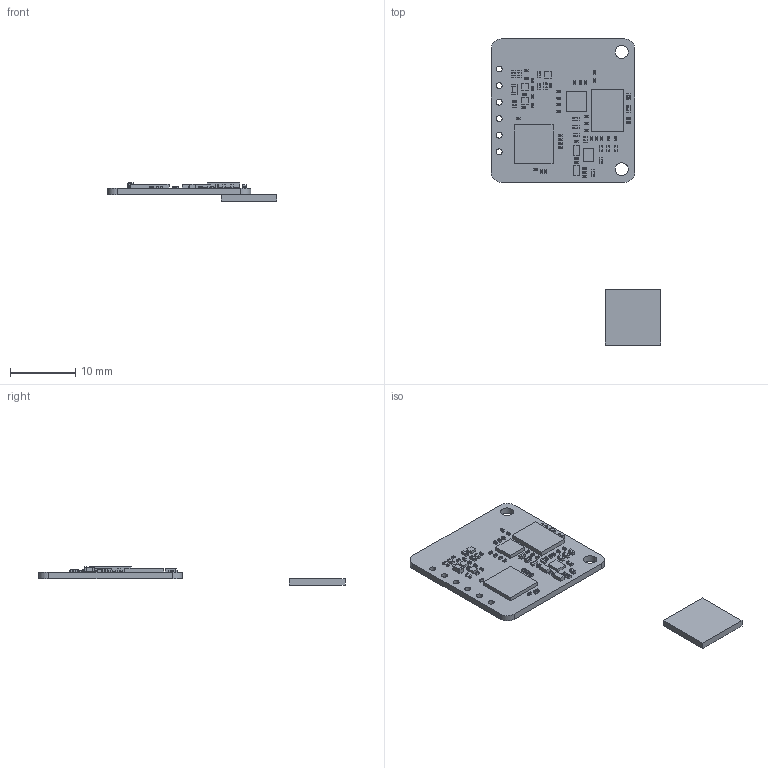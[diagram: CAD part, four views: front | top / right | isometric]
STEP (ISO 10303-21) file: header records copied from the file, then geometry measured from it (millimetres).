
FILE_DESCRIPTION(('Open CASCADE Model'),'2;1');
FILE_NAME('Open CASCADE Shape Model','2025-01-21T11:12:13',('Author'),( 'Open CASCADE'),'Open CASCADE STEP processor 6.8','Open CASCADE 6.8' ,'Unknown');
FILE_SCHEMA(('AUTOMOTIVE_DESIGN { 1 0 10303 214 1 1 1 1 }'));
Length unit declared in the file: millimetre
Products named in the file (94): PCB; Board; V3; 6034308352; Extruded; V2; V1; R22; User_Library-0201(0603M)_Cap; R20; R15; R14; R12; R10; R18; C16; C10; X1; 6034308544; U2; 6034308928; R9; R8; R6; R5; R4; R3; R1; Pow1; User_Library-C-0402; LED1; L8; STEP-WE-CBF-0402-rev1; 74279273; Lötende; L7; L6; L5; R0; L3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
Assembly tree (154 placements, depth 4):
  PCB
    Board
    V3
      6034308352
        Extruded
    V2
      6034308352
        Extruded
    V1
      6034308352
        Extruded
    R22
      User_Library-0201(0603M)_Cap
    R20
      User_Library-0201(0603M)_Cap
    R15
      User_Library-0201(0603M)_Cap
    R14
      User_Library-0201(0603M)_Cap
    R12
      User_Library-0201(0603M)_Cap
    R10
      User_Library-0201(0603M)_Cap
    R18
      User_Library-0201(0603M)_Cap
    C16
      User_Library-0201(0603M)_Cap
    C10
      User_Library-0201(0603M)_Cap
    X1
      6034308544
        Extruded
    U2
      6034308928
        Extruded
    R9
      User_Library-0201(0603M)_Cap
    R8
      User_Library-0201(0603M)_Cap
    R6
      User_Library-0201(0603M)_Cap
    R5
      User_Library-0201(0603M)_Cap
    R4
      User_Library-0201(0603M)_Cap
    R3
      User_Library-0201(0603M)_Cap
    R1
      User_Library-0201(0603M)_Cap
    Pow1
      User_Library-C-0402
    LED1
      User_Library-C-0402
    L8
      STEP-WE-CBF-0402-rev1
        74279273
        Lötende  x2
    L7
      STEP-WE-CBF-0402-rev1
        74279273
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Bounding box: 25.98 x 47 x 2.79 mm (x, y, z)
Volume: 601.5 mm3; surface area: 1572.5 mm2
Topology: 173 solids, 173 shells, 6136 faces, 15214 edges, 9268 vertices
Faces by surface type: bspline 2536, plane 2192, cylinder 1352, sphere 56
Full cylindrical faces by diameter (mm): 0.9 x6, 2 x2
Entity records: 15968 total; most frequent: CARTESIAN_POINT 4759, DIRECTION 1657, ORIENTED_EDGE 1538, EDGE_CURVE 769, AXIS2_PLACEMENT_3D 600, VERTEX_POINT 466, LINE 457, VECTOR 457
